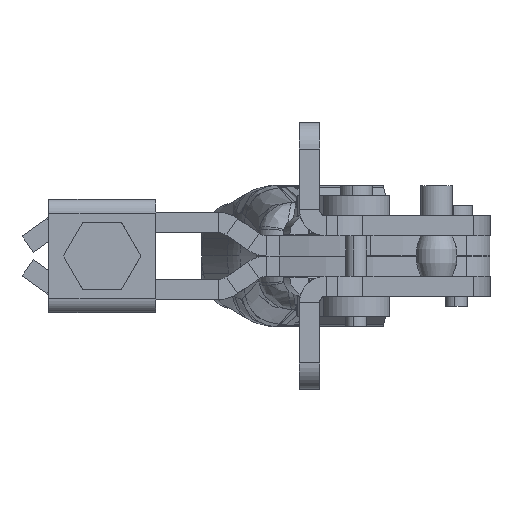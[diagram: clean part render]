
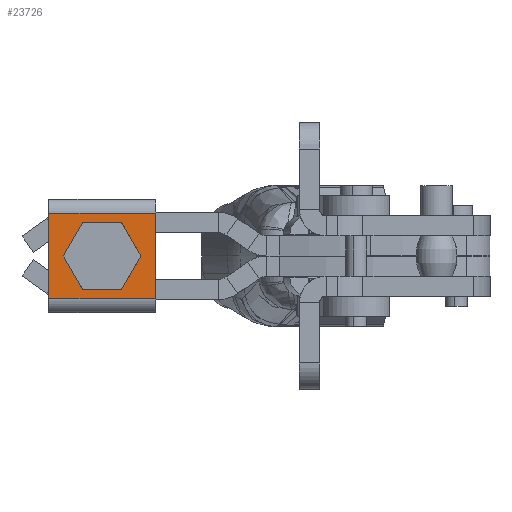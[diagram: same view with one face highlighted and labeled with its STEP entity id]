
A CAD part, front view. The second image highlights one B-rep face of the part: STEP entity #23726.
In plain terms, the highlighted planar face has unit normal (-0.001, -1, 0) as drawn and (0, 1, 0) by its records, which use the part's own axes.
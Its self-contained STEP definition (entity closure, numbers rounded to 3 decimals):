
#436 = DIRECTION ( 'NONE',  ( 0., 0., -1. ) ) ;
#788 = VECTOR ( 'NONE', #436, 1000. ) ;
#1577 = DIRECTION ( 'NONE',  ( 1., 0., 0. ) ) ;
#1890 = DIRECTION ( 'NONE',  ( 0., 0., -1. ) ) ;
#1939 = AXIS2_PLACEMENT_3D ( 'NONE', #30266, #12599, #33227 ) ;
#3740 = CARTESIAN_POINT ( 'NONE',  ( -8.5, 5., 8. ) ) ;
#5609 = ORIENTED_EDGE ( 'NONE', *, *, #22090, .T. ) ;
#5786 = CIRCLE ( 'NONE', #12150, 3.25 ) ;
#7256 = CARTESIAN_POINT ( 'NONE',  ( 0., 5., 3.25 ) ) ;
#8220 = FACE_BOUND ( 'NONE', #10167, .T. ) ;
#8633 = LINE ( 'NONE', #18322, #788 ) ;
#9664 = DIRECTION ( 'NONE',  ( 1., 0., 0. ) ) ;
#9689 = VERTEX_POINT ( 'NONE', #16014 ) ;
#9820 = CIRCLE ( 'NONE', #1939, 3.25 ) ;
#10167 = EDGE_LOOP ( 'NONE', ( #13092, #14816 ) ) ;
#11292 = EDGE_LOOP ( 'NONE', ( #25454, #25379, #5609, #29309 ) ) ;
#12150 = AXIS2_PLACEMENT_3D ( 'NONE', #15503, #36182, #18477 ) ;
#12291 = LINE ( 'NONE', #16238, #21060 ) ;
#12599 = DIRECTION ( 'NONE',  ( 0., 1., 0. ) ) ;
#13092 = ORIENTED_EDGE ( 'NONE', *, *, #27597, .F. ) ;
#14224 = EDGE_CURVE ( 'NONE', #18342, #26708, #38216, .T. ) ;
#14717 = EDGE_CURVE ( 'NONE', #26708, #37353, #12291, .T. ) ;
#14816 = ORIENTED_EDGE ( 'NONE', *, *, #31240, .F. ) ;
#15065 = PLANE ( 'NONE',  #16528 ) ;
#15138 = VECTOR ( 'NONE', #9664, 1000. ) ;
#15193 = CARTESIAN_POINT ( 'NONE',  ( -8.5, 5., 8. ) ) ;
#15503 = CARTESIAN_POINT ( 'NONE',  ( 0., 5., 0. ) ) ;
#16014 = CARTESIAN_POINT ( 'NONE',  ( 6.4, 5., 8. ) ) ;
#16238 = CARTESIAN_POINT ( 'NONE',  ( -8.5, 5., -8. ) ) ;
#16528 = AXIS2_PLACEMENT_3D ( 'NONE', #15193, #35848, #18163 ) ;
#18163 = DIRECTION ( 'NONE',  ( 0., 0., 1. ) ) ;
#18322 = CARTESIAN_POINT ( 'NONE',  ( 6.4, 5., 8. ) ) ;
#18342 = VERTEX_POINT ( 'NONE', #36423 ) ;
#18477 = DIRECTION ( 'NONE',  ( 0., 0., 1. ) ) ;
#18812 = CARTESIAN_POINT ( 'NONE',  ( -6.4, 5., -8. ) ) ;
#21060 = VECTOR ( 'NONE', #1577, 1000. ) ;
#22090 = EDGE_CURVE ( 'NONE', #18342, #9689, #35929, .T. ) ;
#23054 = VERTEX_POINT ( 'NONE', #7256 ) ;
#23726 = ADVANCED_FACE ( 'NONE', ( #8220, #32646 ), #15065, .T. ) ;
#23967 = CARTESIAN_POINT ( 'NONE',  ( 0., 5., -3.25 ) ) ;
#24848 = EDGE_CURVE ( 'NONE', #9689, #37353, #8633, .T. ) ;
#25379 = ORIENTED_EDGE ( 'NONE', *, *, #14224, .F. ) ;
#25454 = ORIENTED_EDGE ( 'NONE', *, *, #14717, .F. ) ;
#26708 = VERTEX_POINT ( 'NONE', #18812 ) ;
#27597 = EDGE_CURVE ( 'NONE', #23054, #29074, #5786, .T. ) ;
#28299 = CARTESIAN_POINT ( 'NONE',  ( 6.4, 5., -8. ) ) ;
#29074 = VERTEX_POINT ( 'NONE', #23967 ) ;
#29309 = ORIENTED_EDGE ( 'NONE', *, *, #24848, .T. ) ;
#30266 = CARTESIAN_POINT ( 'NONE',  ( 0., 5., 0. ) ) ;
#30325 = VECTOR ( 'NONE', #1890, 1000. ) ;
#31240 = EDGE_CURVE ( 'NONE', #29074, #23054, #9820, .T. ) ;
#31392 = CARTESIAN_POINT ( 'NONE',  ( -6.4, 5., 8. ) ) ;
#32646 = FACE_OUTER_BOUND ( 'NONE', #11292, .T. ) ;
#33227 = DIRECTION ( 'NONE',  ( 0., 0., 1. ) ) ;
#35848 = DIRECTION ( 'NONE',  ( 0., 1., 0. ) ) ;
#35929 = LINE ( 'NONE', #3740, #15138 ) ;
#36182 = DIRECTION ( 'NONE',  ( 0., 1., 0. ) ) ;
#36423 = CARTESIAN_POINT ( 'NONE',  ( -6.4, 5., 8. ) ) ;
#37353 = VERTEX_POINT ( 'NONE', #28299 ) ;
#38216 = LINE ( 'NONE', #31392, #30325 ) ;
